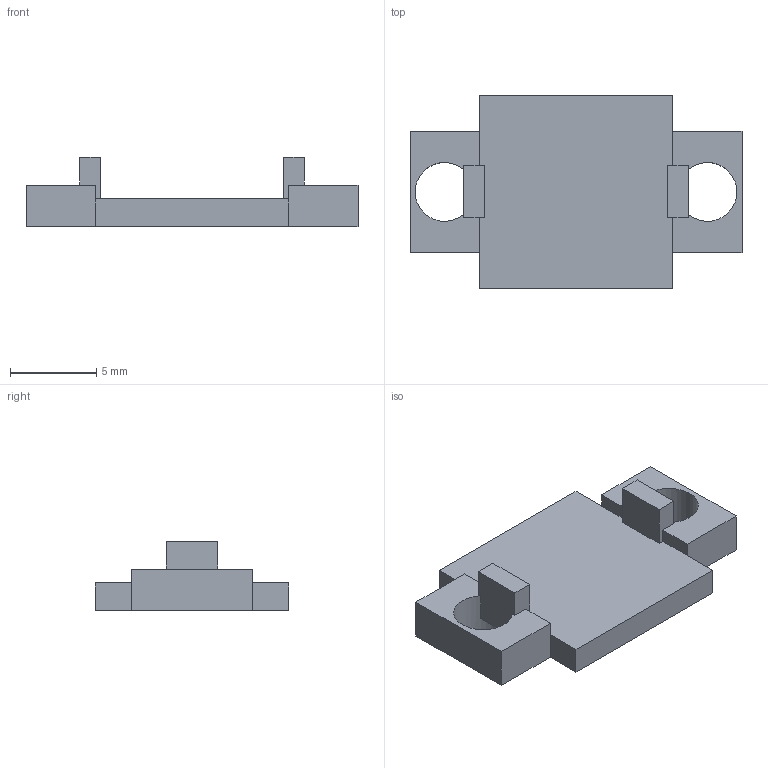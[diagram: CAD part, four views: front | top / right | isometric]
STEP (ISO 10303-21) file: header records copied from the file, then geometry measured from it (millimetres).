
FILE_DESCRIPTION(('FreeCAD Model'),'2;1');
FILE_NAME('Open CASCADE Shape Model','2026-11-20T08:25:38',('FreeCAD'),( 'FreeCAD'),'Open CASCADE STEP processor 7.8','FreeCAD','Unknown');
FILE_SCHEMA(('AUTOMOTIVE_DESIGN { 1 0 10303 214 1 1 1 1 }'));
Length unit declared in the file: millimetre
Products named in the file (1): Open CASCADE STEP translator 7.8 67
Bounding box: 19.2 x 11.2 x 4 mm (x, y, z)
Volume: 307.9 mm3; surface area: 541.3 mm2
Topology: 1 solids, 1 shells, 34 faces, 98 edges, 64 vertices
Faces by surface type: plane 32, cylinder 2
Full cylindrical faces by diameter (mm): 3.4 x2
Entity records: 1116 total; most frequent: CARTESIAN_POINT 197, ORIENTED_EDGE 196, DIRECTION 176, EDGE_CURVE 98, LINE 90, VECTOR 90, VERTEX_POINT 64, AXIS2_PLACEMENT_3D 43
